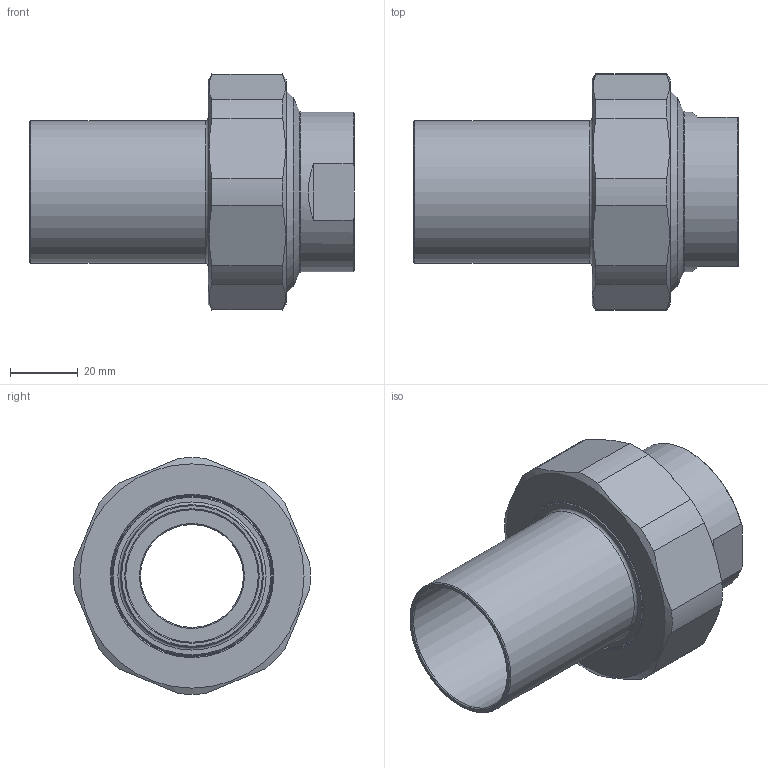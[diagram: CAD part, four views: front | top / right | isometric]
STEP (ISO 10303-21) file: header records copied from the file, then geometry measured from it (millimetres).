
FILE_DESCRIPTION(/* description */ (''),/* implementation_level */ '2;1');
FILE_NAME(/* name */ 'C:\Users\cad\Desktop\Zeichnungen neu von Ralph\Ganze Kupplungen\3D_Kupplung-R666-PE-G\3D_R666-PE-G-42-DN50-DN25_1711309474.stp',/* time_stamp */ '2021-07-16T09:22:27+02:00',/* author */ ('cad'),/* organization */ (''),/* preprocessor_version */ 'ST-DEVELOPER v18.1',/* originating_system */ 'Autodesk Inventor 2022',/* authorisation */ '');
FILE_SCHEMA (('AUTOMOTIVE_DESIGN { 1 0 10303 214 3 1 1 }'));
Length unit declared in the file: millimetre
Products named in the file (4): 3D_R666-PE-G-42-DN50-DN25_1711309474; 3D_R666-M-DN50_17113960; 3D_R666-G-DN25-DN50_17113555; 3D_R666-PE-42-DN50_17113483
Assembly tree (3 placements, depth 2):
  3D_R666-PE-G-42-DN50-DN25_1711309474
    3D_R666-M-DN50_17113960
    3D_R666-G-DN25-DN50_17113555
    3D_R666-PE-42-DN50_17113483
Bounding box: 95.5 x 69.68 x 69.65 mm (x, y, z)
Volume: 92581.7 mm3; surface area: 42122.3 mm2
Topology: 3 solids, 3 shells, 63 faces, 160 edges, 106 vertices
Faces by surface type: plane 21, cone 19, cylinder 18, torus 5
Full cylindrical faces by diameter (mm): 30.291 x1, 39 x1, 42 x1, 47 x2, 47.5 x1, 54.5 x1, 56.656 x1, 59.5 x1, 60 x1
Entity records: 2082 total; most frequent: CARTESIAN_POINT 376, DIRECTION 369, ORIENTED_EDGE 320, EDGE_CURVE 160, AXIS2_PLACEMENT_3D 159, VERTEX_POINT 106, CIRCLE 87, EDGE_LOOP 72
